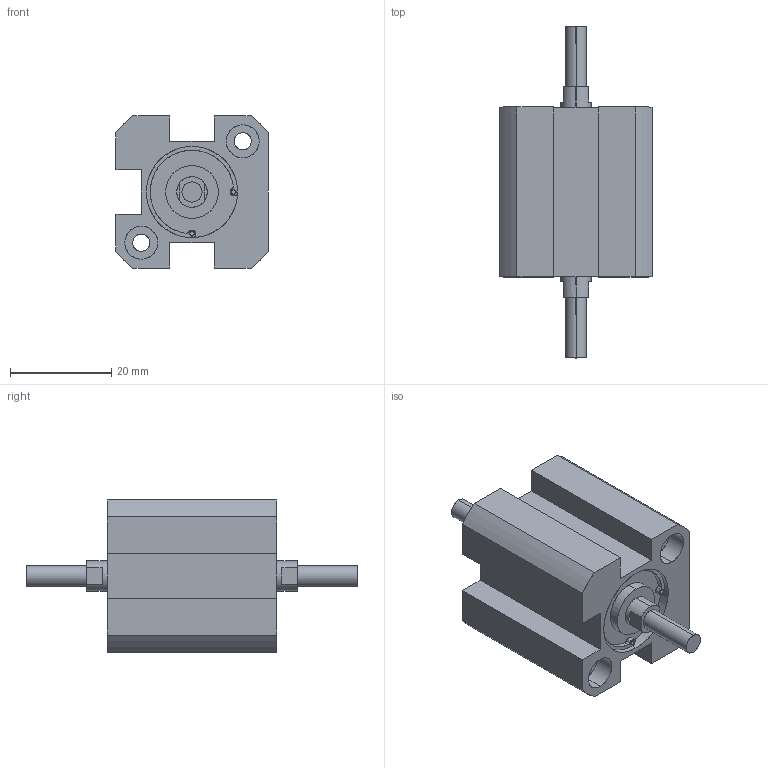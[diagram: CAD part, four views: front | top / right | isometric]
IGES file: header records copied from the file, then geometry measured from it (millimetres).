
Start section: SolidWorks IGES file using analytic representation for surfaces
Global section: file name: C:\Users\Toshiba\Desktop\XC#M7-16-10.IGS; native system: SolidWorks 2014; preprocessor: SolidWorks 2014; author: Toshiba; date: 160523.165405; units: millimetre
Bounding box: 30 x 65.5 x 30 mm (x, y, z)
Surface area: 8248.3 mm2 (no closed solid volume)
Topology: 0 solids, 0 shells, 106 faces, 1752 edges, 1748 vertices
Faces by surface type: revolution 62, bspline 44
